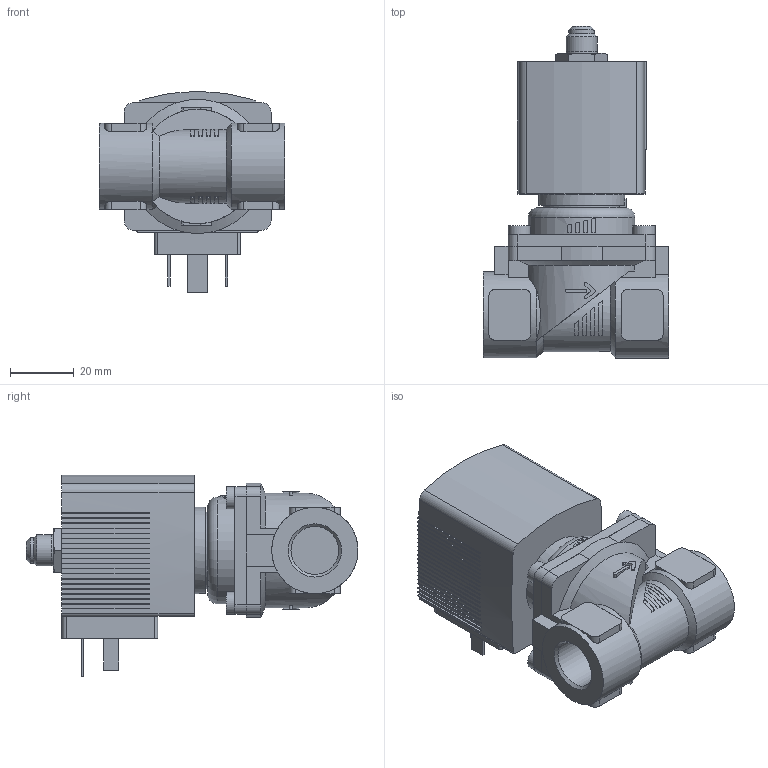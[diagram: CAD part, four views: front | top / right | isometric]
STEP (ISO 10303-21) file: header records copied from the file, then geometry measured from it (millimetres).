
FILE_DESCRIPTION(/* description */ ('STEP AP214'),/* implementation_level */ '2;1');
FILE_NAME(/* name */ '6281-310663-2_2-Way_Solenoid_Valve__Servo-assisted__General_Purpose',/* time_stamp */ '2024-05-15T21:29:43+02:00',/* author */ ('License CC BY-ND 4.0'),/* organization */ ('CADENAS'),/* preprocessor_version */ 'ST-DEVELOPER v19.3',/* originating_system */ 'PARTsolutions',/* authorisation */ ' ');
FILE_SCHEMA (('AUTOMOTIVE_DESIGN {1 0 10303 214 3 1 1}'));
Length unit declared in the file: millimetre
Products named in the file (4): 6281-310663-2/2-Way Solenoid Valve, Servo-assisted, General Purpose; 5281ev130MS2/2-Wege-Magnetventil mit Servomembran-Deckel  MX62 ; 6213-13G3/8MS-Gehaeuse-; AC10ex-6OO-Gewinde-Coil
Assembly tree (3 placements, depth 2):
  6281-310663-2/2-Way Solenoid Valve, Servo-assisted, General Purpose
    5281ev130MS2/2-Wege-Magnetventil mit Servomembran-Deckel  MX62 
    6213-13G3/8MS-Gehaeuse-
    AC10ex-6OO-Gewinde-Coil
Bounding box: 58 x 103.9 x 63 mm (x, y, z)
Volume: 136700.6 mm3; surface area: 29841.3 mm2
Topology: 3 solids, 3 shells, 519 faces, 1416 edges, 933 vertices
Faces by surface type: plane 419, cylinder 82, cone 17, torus 1
Full cylindrical faces by diameter (mm): 2.013 x1, 2.7 x1, 7 x4, 8 x1, 9.73 x1, 9.74 x1, 14.95 x2, 27 x2, 33.4 x1
Entity records: 18780 total; most frequent: CARTESIAN_POINT 3062, ORIENTED_EDGE 2768, DIRECTION 2682, EDGE_CURVE 1384, LINE 1008, VECTOR 1008, VERTEX_POINT 922, AXIS2_PLACEMENT_3D 837
